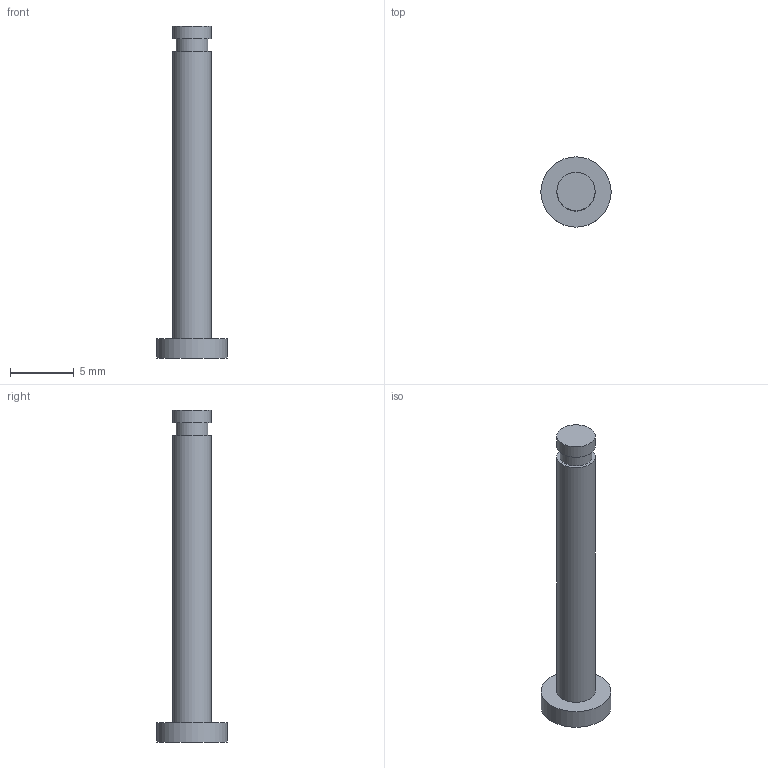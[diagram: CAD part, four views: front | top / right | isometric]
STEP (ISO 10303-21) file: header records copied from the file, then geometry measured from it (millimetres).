
FILE_DESCRIPTION(('Open CASCADE Model'),'2;1');
FILE_NAME('F09-PIN3-L26','2026-11-15T22:32:13',('Author'),( 'Open CASCADE'),'Open CASCADE STEP processor 8.0','build123d', 'Unknown');
FILE_SCHEMA(('AUTOMOTIVE_DESIGN { 1 0 10303 214 1 1 1 1 }'));
Length unit declared in the file: millimetre
Products named in the file (1): F09-PIN3-L26
Bounding box: 5.5 x 5.5 x 26 mm (x, y, z)
Volume: 206.7 mm3; surface area: 307.1 mm2
Topology: 1 solids, 1 shells, 9 faces, 12 edges, 8 vertices
Faces by surface type: plane 5, cylinder 4
Full cylindrical faces by diameter (mm): 2.5 x1, 3 x2, 5.5 x1
Entity records: 360 total; most frequent: DIRECTION 64, CARTESIAN_POINT 54, ORIENTED_EDGE 24, PCURVE 24, DEFINITIONAL_REPRESENTATION 24, LINE 20, VECTOR 20, AXIS2_PLACEMENT_3D 18
